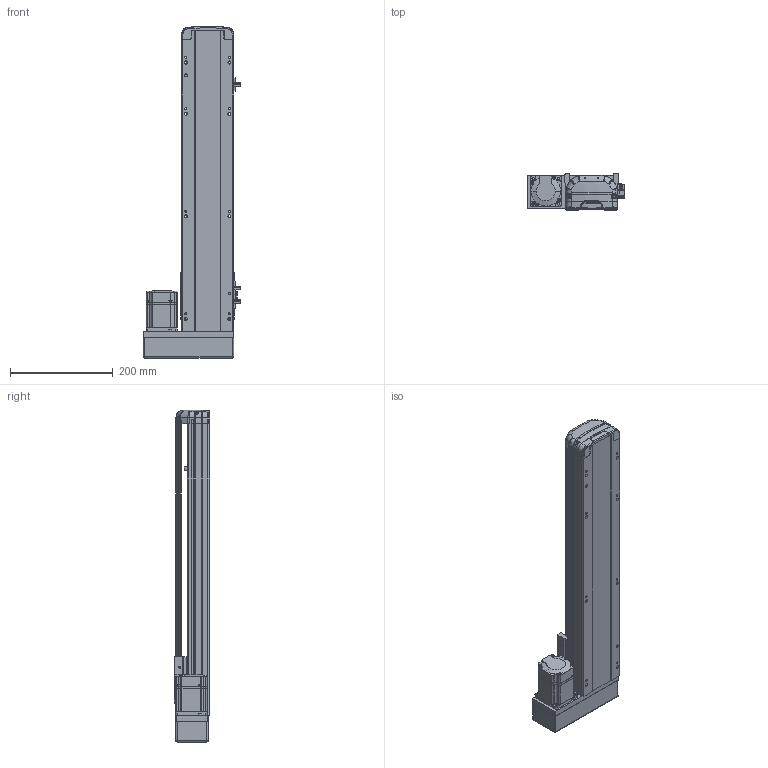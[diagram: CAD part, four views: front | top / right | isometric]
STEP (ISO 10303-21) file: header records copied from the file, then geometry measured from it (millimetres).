
FILE_DESCRIPTION (( 'STEP AP214' ), '1' );
FILE_NAME ('RTH10-XX-400-L-M20-C4.STEP', '2025-10-25T03:45:32', ( 'Microsoft' ), ( 'Microsoft' ), 'SwSTEP 2.0', 'SolidWorks 2018', '' );
FILE_SCHEMA (( 'AUTOMOTIVE_DESIGN' ));
Length unit declared in the file: millimetre
Products named in the file (10): N_RTH12-L-018-裔赽^RTH10-XX-XX-L-M20-C4; N_RTH12-L-008萇儂啣^RTH10-XX-XX-L-M20-C4; N_RTH13-L-012覜茼え俋离^RTH10-XX-XX-L-M20-C4; N_RTH12-M-007P-奻裔^RTH10-XX-XX-L-M20-C4; N_200W-1^RTH10-XX-XX-L-M20-C4; N_RTH12-GY-004-賑釱^RTH10-XX-XX-L-M20-C4; RTH10-XX-400-L-M20-C4; N_RTH12-GY-001P^RTH10-XX-XX-L-M20-C4; N_RTH12-M-011P-臏倰第菁釱^RTH10-XX-XX-L-M20-C4; N_OMRON EE-SX672 传感器^RTH10-XX-XX-L-M20-C4
Assembly tree (11 placements, depth 2):
  RTH10-XX-400-L-M20-C4
    N_RTH12-M-011P-臏倰第菁釱^RTH10-XX-XX-L-M20-C4
    N_RTH13-L-012覜茼え俋离^RTH10-XX-XX-L-M20-C4
    N_OMRON EE-SX672 传感器^RTH10-XX-XX-L-M20-C4  x3
    N_200W-1^RTH10-XX-XX-L-M20-C4
    N_RTH12-M-007P-奻裔^RTH10-XX-XX-L-M20-C4
    N_RTH12-L-008萇儂啣^RTH10-XX-XX-L-M20-C4
    N_RTH12-L-018-裔赽^RTH10-XX-XX-L-M20-C4
    N_RTH12-GY-004-賑釱^RTH10-XX-XX-L-M20-C4
    N_RTH12-GY-001P^RTH10-XX-XX-L-M20-C4
Bounding box: 190 x 70 x 647.14 mm (x, y, z)
Volume: 3145899.8 mm3; surface area: 485337 mm2
Topology: 10 solids, 12 shells, 1956 faces, 5443 edges, 3573 vertices
Faces by surface type: plane 979, bspline 472, cylinder 470, cone 29, sphere 4, torus 2
Entity records: 58681 total; most frequent: CARTESIAN_POINT 23149, ORIENTED_EDGE 7958, DIRECTION 6137, EDGE_CURVE 3985, VERTEX_POINT 2617, VECTOR 2143, LINE 2143, AXIS2_PLACEMENT_3D 1997
